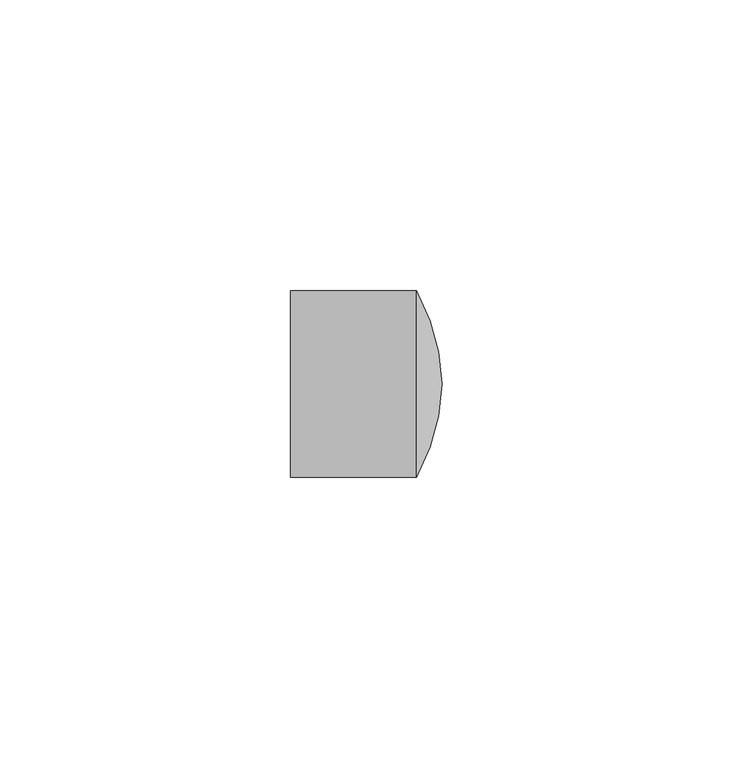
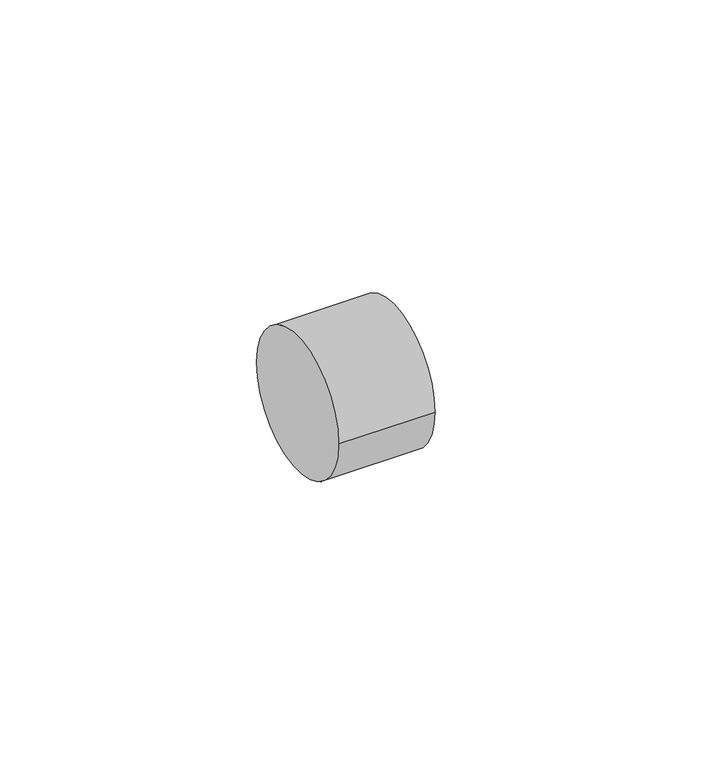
"""IFC4 building model written with IfcOpenShell, lengths in millimetres: pipe fitting geometry, 01051150 : Bouchons MxF."""

import ifcopenshell
import ifcopenshell.guid

model = None  # the IFC model being written
_history = None  # IfcOwnerHistory: only IFC2X3 demands one
_inside = {}  # id of a spatial element -> (the spatial element, [elements in it])
_under = {}  # id of a project, library or spatial element -> (it, [spatial elements below it])
_declared = {}  # id of a project -> (the project, [libraries it declares])
_typed = {}  # id of a type object -> (the type object, [elements of that type])
_made_of = {}  # id of a material, layer set ... -> (it, [elements and type objects made of it])


def new_model(schema):
    """Start an empty IFC model of exactly this schema.

    Asked for "IFC4X3", IfcOpenShell would pick the latest addendum, in which some entities
    have other attributes; the version numbers below select the first issue.
    IFC2X3 requires an IfcOwnerHistory on every rooted entity: one is made here for all.
    """
    global model, _history
    if schema == "IFC4X3":
        model = ifcopenshell.file(schema_version=(4, 3, 0, 0))
    else:
        model = ifcopenshell.file(schema=schema)
    _inside.clear()
    _under.clear()
    _declared.clear()
    _typed.clear()
    _made_of.clear()
    _history = None
    if model.schema == "IFC2X3":
        org = make("IfcOrganization", Name="unknown")
        user = make(
            "IfcPersonAndOrganization",
            ThePerson=make("IfcPerson", FamilyName="unknown"),
            TheOrganization=org,
        )
        app = make(
            "IfcApplication",
            ApplicationDeveloper=org,
            Version="unknown",
            ApplicationFullName="unknown",
            ApplicationIdentifier="unknown",
        )
        _history = make(
            "IfcOwnerHistory",
            OwningUser=user,
            OwningApplication=app,
            ChangeAction="ADDED",
            CreationDate=0,
        )
    return model


def make(cls, **values):
    """One entity of the class cls with the attributes given. An attribute that is None is left unset."""
    return model.create_entity(
        cls, **{name: value for name, value in values.items() if value is not None}
    )


def rooted(cls, **values):
    """An entity with a GlobalId (a new one), such as an element, a storey or a relation."""
    return make(cls, GlobalId=ifcopenshell.guid.new(), OwnerHistory=_history, **values)


def si_unit(unit_type, name, prefix=None):
    """IfcSIUnit, for example si_unit("LENGTHUNIT", "METRE", prefix="MILLI")."""
    return make("IfcSIUnit", UnitType=unit_type, Prefix=prefix, Name=name)


def assignment(units):
    """IfcUnitAssignment: the units of a project."""
    return None if units is None else make("IfcUnitAssignment", Units=units)


def point(xyz):
    """IfcCartesianPoint."""
    return None if xyz is None else make("IfcCartesianPoint", Coordinates=xyz)


def direction(xyz):
    """IfcDirection."""
    return None if xyz is None else make("IfcDirection", DirectionRatios=xyz)


def frame(location, z_axis=None, x_axis=None):
    """IfcAxis2Placement3D, a coordinate frame: its origin and axes. An axis left out is left unset."""
    return make(
        "IfcAxis2Placement3D",
        Location=point(location),
        Axis=direction(z_axis),
        RefDirection=direction(x_axis),
    )


def origin():
    """The frame at (0, 0, 0) with its axes left unset."""
    return frame((0.0, 0.0, 0.0))


def place(relative_to, where):
    """IfcLocalPlacement: puts the frame where relative to a parent placement (None: the world)."""
    return make(
        "IfcLocalPlacement", PlacementRelTo=relative_to, RelativePlacement=where
    )


def context(
    kind, dimensions, precision=None, world=None, true_north=None, identifier=None
):
    """IfcGeometricRepresentationContext, for example the 3D "Model" context."""
    return make(
        "IfcGeometricRepresentationContext",
        ContextIdentifier=identifier,
        ContextType=kind,
        CoordinateSpaceDimension=dimensions,
        Precision=precision,
        WorldCoordinateSystem=world,
        TrueNorth=true_north,
    )


def project(units=None, contexts=None):
    """IfcProject with its units and contexts."""
    return rooted(
        "IfcProject",
        Name="project",
        RepresentationContexts=contexts,
        UnitsInContext=assignment(units),
    )


def spatial(cls, under=None, at=None, **own):
    """A site, building, storey or space (cls), placed at a placement, below another one or the project."""
    s = rooted(cls, ObjectPlacement=at, **own)
    if under is not None:
        _under.setdefault(under.id(), (under, []))[1].append(s)
    return s


def circle_curve(where, radius):
    """IfcCircle in the frame where."""
    return make("IfcCircle", Position=where, Radius=radius)


def ellipse_curve(where, semi_axis1, semi_axis2):
    """IfcEllipse in the frame where."""
    return make(
        "IfcEllipse", Position=where, SemiAxis1=semi_axis1, SemiAxis2=semi_axis2
    )


def trimmed(basis, trim1, trim2, sense, master):
    """IfcTrimmedCurve: the piece of a basis curve between two trims."""
    return make(
        "IfcTrimmedCurve",
        BasisCurve=basis,
        Trim1=trim1,
        Trim2=trim2,
        SenseAgreement=sense,
        MasterRepresentation=master,
    )


def shape(context_of_items, identifier, shape_type, items):
    """IfcShapeRepresentation: the items that make up one representation, for example the "Body"."""
    return make(
        "IfcShapeRepresentation",
        ContextOfItems=context_of_items,
        RepresentationIdentifier=identifier,
        RepresentationType=shape_type,
        Items=items,
    )


def source(mapping_origin, context_of_items, identifier, shape_type, items):
    """IfcRepresentationMap: a shape defined once, which mapped items show again and again."""
    return make(
        "IfcRepresentationMap",
        MappingOrigin=mapping_origin,
        MappedRepresentation=shape(context_of_items, identifier, shape_type, items),
    )


def transform(
    local_origin,
    x_axis=None,
    y_axis=None,
    z_axis=None,
    scale=None,
    scale2=None,
    scale3=None,
    uniform=True,
):
    """IfcCartesianTransformationOperator3D, or its non-uniform kind. x_axis, y_axis, z_axis: its Axis1, 2, 3."""
    if uniform:
        return make(
            "IfcCartesianTransformationOperator3D",
            Axis1=direction(x_axis),
            Axis2=direction(y_axis),
            LocalOrigin=point(local_origin),
            Scale=scale,
            Axis3=direction(z_axis),
        )
    return make(
        "IfcCartesianTransformationOperator3DnonUniform",
        Axis1=direction(x_axis),
        Axis2=direction(y_axis),
        LocalOrigin=point(local_origin),
        Scale=scale,
        Axis3=direction(z_axis),
        Scale2=scale2,
        Scale3=scale3,
    )


def mapped(mapping_source, mapping_target):
    """IfcMappedItem: shows the shape of a source again, moved by a transform."""
    return make(
        "IfcMappedItem", MappingSource=mapping_source, MappingTarget=mapping_target
    )


def made_of(thing, what):
    """Note that an element or type object is made of a material, layer set ...; save() writes the relation."""
    if what is not None:
        _made_of.setdefault(what.id(), (what, []))[1].append(thing)
    return thing


def element(
    cls,
    number,
    at=None,
    inside=None,
    cuts=None,
    type_object=None,
    material=None,
    context=None,
    identifier="Body",
    shape_type=None,
    held_by="IfcProductDefinitionShape",
    body=None,
    shapes=None,
    **own,
):
    """One element of the class cls, such as IfcWall. Its Tag is "e" and its number.

    at: its placement. inside: the storey or other place that contains it. cuts: it is an
    opening in that element (IfcRelVoidsElement). A single representation is given by context,
    identifier, shape_type and body (its items); several are given by shapes. held_by: the class
    of the entity that holds the representations. save() writes the other relations.
    """
    e = rooted(cls, Tag="e%d" % number, ObjectPlacement=at, **own)
    if body is not None:
        shapes = [shape(context, identifier, shape_type, body)]
    if shapes is not None:
        e.Representation = make(held_by, Representations=shapes)
    if inside is not None:
        _inside.setdefault(inside.id(), (inside, []))[1].append(e)
    if cuts is not None:
        rooted(
            "IfcRelVoidsElement", RelatingBuildingElement=cuts, RelatedOpeningElement=e
        )
    if type_object is not None:
        _typed.setdefault(type_object.id(), (type_object, []))[1].append(e)
    return made_of(e, material)


def aggregate(whole, parts):
    """IfcRelAggregates: a whole, such as a stair, and the parts it consists of."""
    return rooted("IfcRelAggregates", RelatingObject=whole, RelatedObjects=parts)


def save(model, path):
    """Write the relations noted so far, then the file.

    IfcRelAggregates (storeys below a building ...), IfcRelContainedInSpatialStructure (elements
    in a storey), IfcRelDefinesByType, IfcRelAssociatesMaterial and IfcRelDeclares: one each for
    every whole, place, type object, material and project.
    """
    for whole, parts in _under.values():
        aggregate(whole, parts)
    for where, things in _inside.values():
        rooted(
            "IfcRelContainedInSpatialStructure",
            RelatedElements=things,
            RelatingStructure=where,
        )
    for kind, things in _typed.values():
        rooted("IfcRelDefinesByType", RelatedObjects=things, RelatingType=kind)
    for what, things in _made_of.values():
        rooted("IfcRelAssociatesMaterial", RelatedObjects=things, RelatingMaterial=what)
    for by, libraries in _declared.values():
        rooted("IfcRelDeclares", RelatingContext=by, RelatedDefinitions=libraries)
    model.write(path)


def plane_surface(at):
    """IfcPlane: the flat surface through the origin of the frame at, square to its z axis."""
    return make("IfcPlane", Position=at)


def cylinder_surface(at, radius):
    """IfcCylindricalSurface: all points at the distance radius from the z axis of the frame at."""
    return make("IfcCylindricalSurface", Position=at, Radius=radius)


def revolved_surface(curve, axis_point, axis_direction):
    """IfcSurfaceOfRevolution: the curve turned about the line through axis_point along axis_direction."""
    return make(
        "IfcSurfaceOfRevolution",
        SweptCurve=make("IfcArbitraryOpenProfileDef", ProfileType="CURVE", Curve=curve),
        AxisPosition=make("IfcAxis1Placement", Location=point(axis_point), Axis=direction(axis_direction)),
    )


def advanced_brep(points, edges, surfaces, faces):
    """IfcAdvancedBrep: a solid bounded by faces that lie on surfaces and meet in shared edges.

    An edge is (start, end): straight between two places in points (the first is 0);
    or (start, end, curve); or (start, end, curve, False) where it runs against its curve.
    A face is (place in surfaces, loops), or (place, loops, False) where it looks against
    its surface's normal. A loop lists edges by number (the first is 1), with a minus sign
    where the edge is run from its end to its start. The first loop is the outer one.
    """
    corners = [point(p) for p in points]
    vertices = [make("IfcVertexPoint", VertexGeometry=c) for c in corners]
    made = []
    for start, end, *more in edges:
        made.append(
            make(
                "IfcEdgeCurve",
                EdgeStart=vertices[start],
                EdgeEnd=vertices[end],
                EdgeGeometry=more[0] if more else make("IfcPolyline", Points=[corners[start], corners[end]]),
                SameSense=more[1] if len(more) > 1 else True,
            )
        )
    hull = []
    for where, loops, *sense in faces:
        bounds = []
        for j, loop in enumerate(loops):
            ring = [make("IfcOrientedEdge", EdgeElement=made[abs(k) - 1], Orientation=k > 0) for k in loop]
            bounds.append(
                make(
                    "IfcFaceOuterBound" if j == 0 else "IfcFaceBound",
                    Bound=make("IfcEdgeLoop", EdgeList=ring),
                    Orientation=True,
                )
            )
        hull.append(make("IfcAdvancedFace", Bounds=bounds, FaceSurface=surfaces[where], SameSense=sense[0] if sense else True))
    return make("IfcAdvancedBrep", Outer=make("IfcClosedShell", CfsFaces=hull))


def pipe_fitting_70a95a55(model_context):
    return source(origin(), model_context, "Body", "AdvancedBrep", [
        advanced_brep(
        [(21.6666667, 16.0, 0.0), (26.0, 0.0, 0.0), (21.6666667, -16.0, 0.0), (0.0, -16.0, 0.0), (0.0, 16.0, 0.0)],
        [
            (0, 1, circle_curve(frame((-10.6647219, -1.3432233, 0.0), z_axis=(0.0, 0.0, -1.0), x_axis=(1.0, 0.0, 0.0)), 36.6893183)),
            (1, 2, circle_curve(frame((-10.6647219, 1.3432233, 0.0), z_axis=(0.0, 0.0, -1.0), x_axis=(1.0, 0.0, 0.0)), 36.6893183)),
            (2, 0, circle_curve(frame((21.6666667, 0.0, 0.0), z_axis=(1.0, 0.0, 0.0), x_axis=(0.0, 1.0, 0.0)), 16.0)),
            (0, 2, circle_curve(frame((21.6666667, 0.0, 0.0), z_axis=(1.0, 0.0, 0.0), x_axis=(0.0, 1.0, 0.0)), 16.0)),
            (3, 4, circle_curve(frame((0.0, 0.0, 0.0), z_axis=(-1.0, 0.0, 0.0), x_axis=(0.0, 1.0, 0.0)), 16.0)),
            (4, 3, circle_curve(frame((0.0, 0.0, 0.0), z_axis=(-1.0, 0.0, 0.0), x_axis=(0.0, 1.0, 0.0)), 16.0)),
            (3, 2),
            (0, 4),
        ],
        [
            revolved_surface(trimmed(ellipse_curve(frame((-10.6647219, -1.3432233, 0.0), z_axis=(0.0, 0.0, 1.0), x_axis=(1.0, 0.0, 0.0)), 36.6893183, 36.6893183), [point((26.0, 0.0, 0.0))], [point((21.6666667, 16.0, 0.0))], True, "CARTESIAN"), (21.6666667, 0.0, 0.0), (-1.0, 0.0, 0.0)),
            plane_surface(frame((0.0, 0.0, 0.0), z_axis=(-1.0, 0.0, 0.0), x_axis=(0.0, 0.0, 1.0))),
            cylinder_surface(frame((0.0, 0.0, 0.0), z_axis=(-1.0, 0.0, 0.0), x_axis=(0.0, 1.0, 0.0)), 16.0),
        ],
        [
            (0, [[1, 2, 3]]),
            (0, [[-1, 4, -2]]),
            (1, [[5, 6]]),
            (2, [[-5, 7, -4, 8]]),
            (2, [[-6, -8, -3, -7]]),
        ],
    ),
    ])


if __name__ == "__main__":
    model = new_model("IFC4")
    model_context = context("Model", 3, world=origin())
    ifc_project = project(units=[si_unit("LENGTHUNIT", "METRE", prefix="MILLI")], contexts=[model_context])
    site = spatial("IfcSite", under=ifc_project)
    building = spatial("IfcBuilding", under=site)
    placement = place(None, origin())
    pipe_fitting_shape = pipe_fitting_70a95a55(model_context)
    element("IfcPipeFitting", 1, ObjectType="01051150 : Bouchons MxF", at=placement, inside=building, context=model_context, shape_type="MappedRepresentation", body=[
        mapped(pipe_fitting_shape, transform((0.0, 0.0, 0.0), x_axis=(1.0, 0.0, 0.0), y_axis=(0.0, 1.0, 0.0), z_axis=(0.0, 0.0, 1.0))),
    ])
    save(model, "model.ifc")
